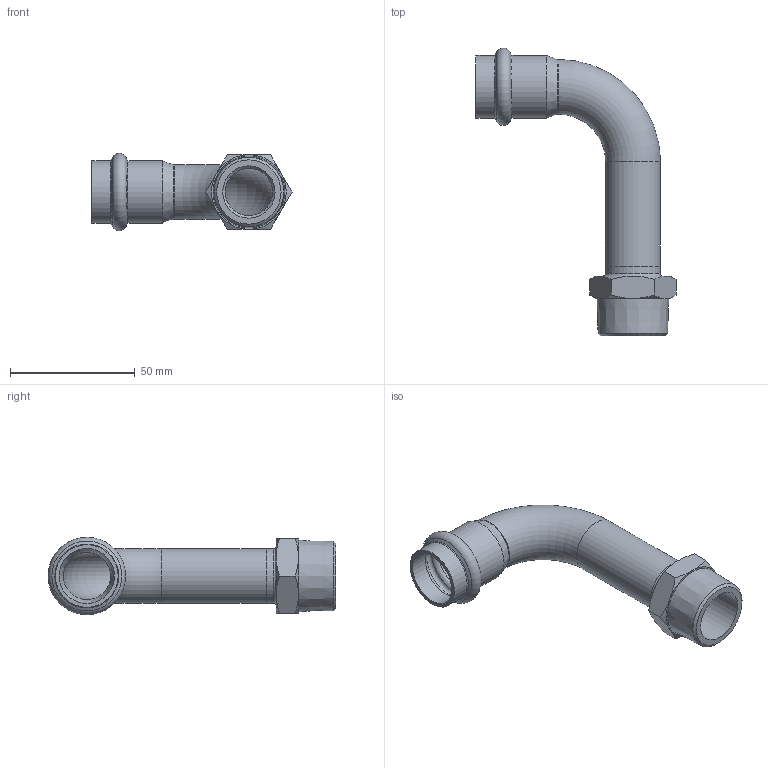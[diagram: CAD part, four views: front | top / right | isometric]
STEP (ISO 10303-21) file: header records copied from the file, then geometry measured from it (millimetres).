
FILE_DESCRIPTION((''),'2;1');
FILE_NAME('G:\Technics\CAD\Bauteile\022\69002AG2234(1).stp','2008-02-18T10:50:38',('herberg'),(''),'Autodesk Inventor 2008','Autodesk Inventor 2008','');
FILE_SCHEMA(('AUTOMOTIVE_DESIGN { 1 0 10303 214 1 1 1 1 }'));
Length unit declared in the file: millimetre
Products named in the file (3): 69002AG2234(1); 69001A22(2); AG2234(1)
Assembly tree (2 placements, depth 2):
  69002AG2234(1)
    69001A22(2)
    AG2234(1)
Bounding box: 80.32 x 115.55 x 31.09 mm (x, y, z)
Volume: 21291.1 mm3; surface area: 22322.1 mm2
Topology: 2 solids, 2 shells, 51 faces, 108 edges, 63 vertices
Faces by surface type: cone 18, plane 12, cylinder 9, bspline 8, torus 4
Full cylindrical faces by diameter (mm): 19 x2, 22 x3, 22.15 x2, 25.15 x2
Entity records: 1457 total; most frequent: CARTESIAN_POINT 505, DIRECTION 190, ORIENTED_EDGE 148, AXIS2_PLACEMENT_3D 92, EDGE_LOOP 84, EDGE_CURVE 74, VERTEX_POINT 56, FACE_OUTER_BOUND 51
